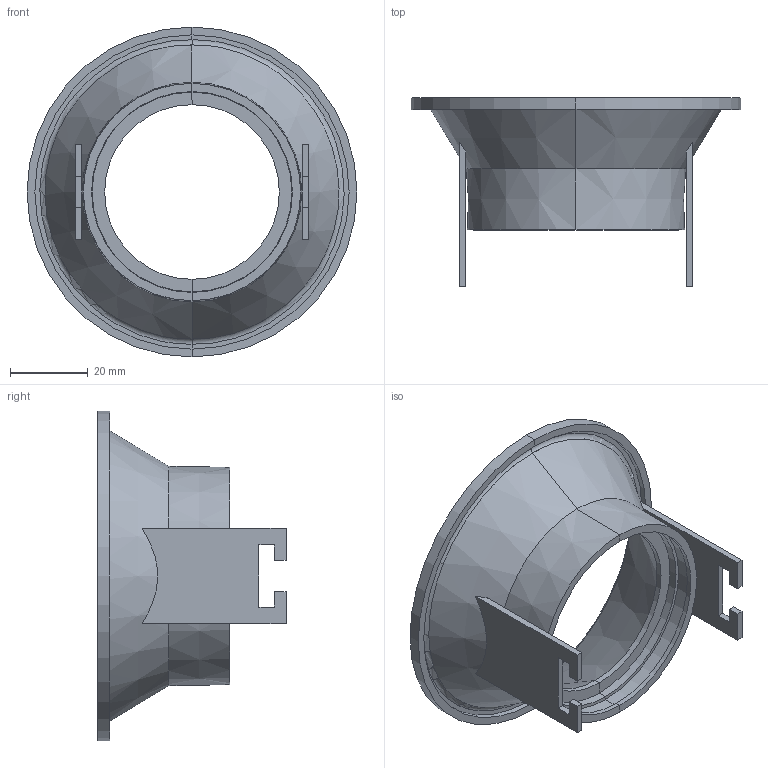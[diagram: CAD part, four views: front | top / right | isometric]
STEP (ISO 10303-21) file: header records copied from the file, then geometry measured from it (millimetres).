
FILE_DESCRIPTION(/* description */ (''),/* implementation_level */ '2;1');
FILE_NAME(/* name */ 'C:\Users\Franco Sartori E\Documents\FARO\DUPLICADO\Modelos\01_Digitalizados\0_GAS\03_Publicación\43404.stp',/* time_stamp */ '2020-07-29T11:00:23+02:00',/* author */ ('Franco Sartori E'),/* organization */ (''),/* preprocessor_version */ 'ST-DEVELOPER v18',/* originating_system */ 'AutoCAD Mechanical',/* authorisation */ '');
FILE_SCHEMA (('AUTOMOTIVE_DESIGN { 1 0 10303 214 3 1 1 }'));
Length unit declared in the file: millimetre
Products named in the file (2): Product; 43404_43405 - GAS-414381-_3D_
Assembly tree (1 placements, depth 2):
  Product
    43404_43405 - GAS-414381-_3D_
Bounding box: 85 x 48.5 x 85 mm (x, y, z)
Volume: 18852.7 mm3; surface area: 21798.6 mm2
Topology: 3 solids, 3 shells, 64 faces, 160 edges, 100 vertices
Faces by surface type: plane 40, cone 10, cylinder 10, torus 4
Entity records: 2124 total; most frequent: CARTESIAN_POINT 607, ORIENTED_EDGE 320, DIRECTION 286, EDGE_CURVE 160, VERTEX_POINT 100, LINE 96, VECTOR 96, AXIS2_PLACEMENT_3D 95
